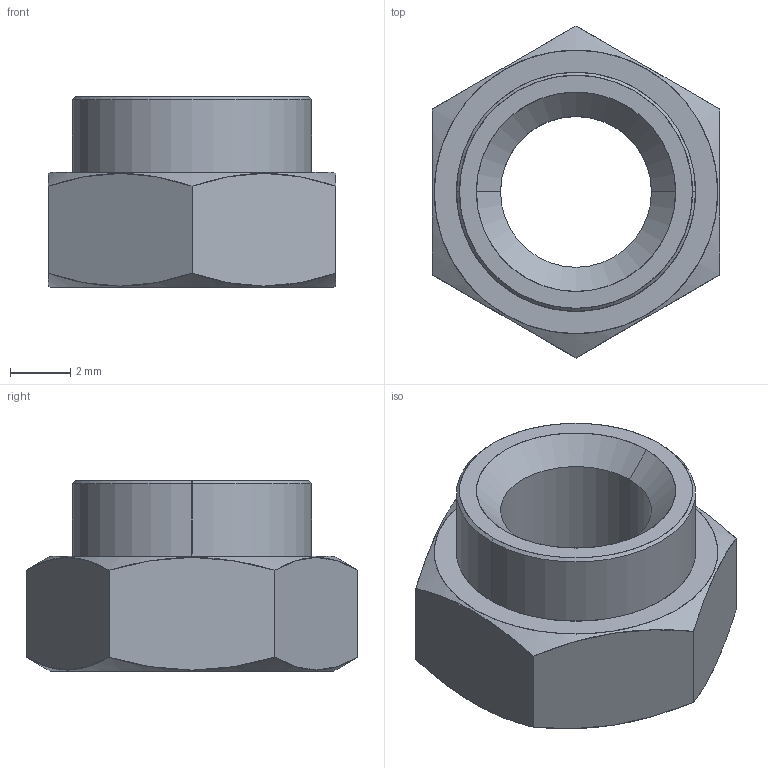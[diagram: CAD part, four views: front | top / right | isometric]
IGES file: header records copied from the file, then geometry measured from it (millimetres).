
Start section: SolidWorks IGES file using analytic representation for surfaces
Global section: file name: C:\Users\liam_\OneDrive\Desktop\Work\Mat Davis Pending 20181125\automotion\P SERIES\P0827.ZP_v2\P0827.ZP_v2_20181231_IGES\P0827.050-14G-ZP.igs; native system: SolidWorks 2017; preprocessor: SolidWorks 2017; author: liam_; date: 181231.110614; units: millimetre
Bounding box: 9.52 x 10.99 x 6.31 mm (x, y, z)
Surface area: 380.9 mm2 (no closed solid volume)
Topology: 0 solids, 0 shells, 23 faces, 376 edges, 376 vertices
Faces by surface type: revolution 14, bspline 9
